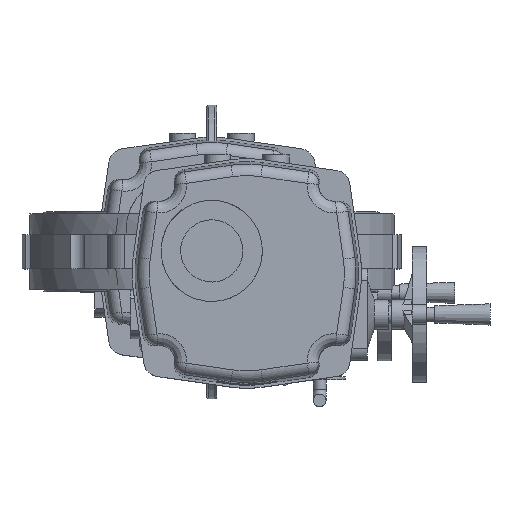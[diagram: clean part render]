
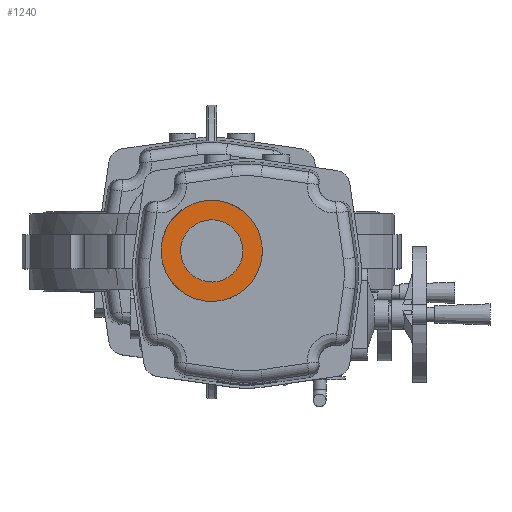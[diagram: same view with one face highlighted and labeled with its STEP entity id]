
A CAD part, top view. The second image highlights one B-rep face of the part: STEP entity #1240.
In plain terms, the highlighted planar face has unit normal (0, 0, 1).
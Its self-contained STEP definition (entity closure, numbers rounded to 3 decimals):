
#1240 = ADVANCED_FACE( '', ( #2769, #2770 ), #2771, .F. );
#2769 = FACE_BOUND( '', #7464, .T. );
#2770 = FACE_OUTER_BOUND( '', #7465, .T. );
#2771 = PLANE( '', #7466 );
#7464 = EDGE_LOOP( '', ( #12987 ) );
#7465 = EDGE_LOOP( '', ( #12988 ) );
#7466 = AXIS2_PLACEMENT_3D( '', #12989, #12990, #12991 );
#12987 = ORIENTED_EDGE( '', *, *, #15614, .T. );
#12988 = ORIENTED_EDGE( '', *, *, #15732, .F. );
#12989 = CARTESIAN_POINT( '', ( -36., 23., 165. ) );
#12990 = DIRECTION( '', ( 0., 0., -1. ) );
#12991 = DIRECTION( '', ( -1., 0., 0. ) );
#15614 = EDGE_CURVE( '', #17960, #17960, #17961, .T. );
#15732 = EDGE_CURVE( '', #18145, #18145, #18146, .T. );
#17960 = VERTEX_POINT( '', #24339 );
#17961 = CIRCLE( '', #24340, 32. );
#18145 = VERTEX_POINT( '', #24938 );
#18146 = CIRCLE( '', #24939, 52. );
#24339 = CARTESIAN_POINT( '', ( -40.599, -8.668, 165. ) );
#24340 = AXIS2_PLACEMENT_3D( '', #31135, #31136, #31137 );
#24938 = CARTESIAN_POINT( '', ( -43.473, -28.46, 165. ) );
#24939 = AXIS2_PLACEMENT_3D( '', #31239, #31240, #31241 );
#31135 = CARTESIAN_POINT( '', ( -36., 23., 165. ) );
#31136 = DIRECTION( '', ( 0., 0., -1. ) );
#31137 = DIRECTION( '', ( -0.144, -0.99, 0. ) );
#31239 = CARTESIAN_POINT( '', ( -36., 23., 165. ) );
#31240 = DIRECTION( '', ( 0., 0., -1. ) );
#31241 = DIRECTION( '', ( -0.144, -0.99, 0. ) );
